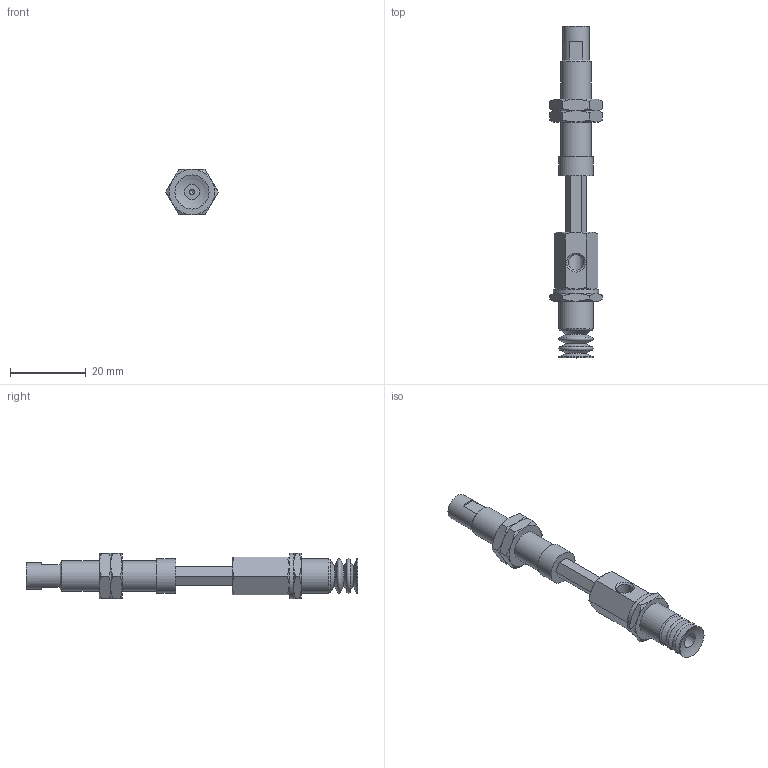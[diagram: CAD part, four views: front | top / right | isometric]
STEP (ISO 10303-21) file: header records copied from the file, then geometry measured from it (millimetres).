
FILE_DESCRIPTION(('STEP AP203'),'1');
FILE_NAME('.stp','2025-04-04T00:55:19',(' '),(' '),'Spatial InterOp 3D',' ',' ');
FILE_SCHEMA(('CONFIG_CONTROL_DESIGN'));
Length unit declared in the file: millimetre
Products named in the file (7): BNABPCYH-10-15-※; Adapter_napc-10-T; Connector_h-10-15; Nut napc_h-10-15; NAPCTH-10-15-FBODY; NAPCTH-10-15-MBODY; BPCG-10-※
Assembly tree (7 placements, depth 2):
  BNABPCYH-10-15-※
    Adapter_napc-10-T
    Connector_h-10-15
    Nut napc_h-10-15  x2
    NAPCTH-10-15-FBODY
    NAPCTH-10-15-MBODY
    BPCG-10-※
Bounding box: 13.86 x 87.7 x 12 mm (x, y, z)
Volume: 4955.4 mm3; surface area: 5472 mm2
Topology: 7 solids, 7 shells, 169 faces, 359 edges, 213 vertices
Faces by surface type: plane 71, cone 69, cylinder 19, torus 8, sphere 2
Full cylindrical faces by diameter (mm): 1.25 x1, 4 x1, 4.134 x3, 5 x6, 7 x1, 7.188 x2, 8 x1, 9 x3, 12 x1
Entity records: 4360 total; most frequent: CARTESIAN_POINT 1131, DIRECTION 596, ORIENTED_EDGE 522, EDGE_CURVE 261, AXIS2_PLACEMENT_3D 257, EDGE_LOOP 210, VERTEX_POINT 182, FACE_OUTER_BOUND 174
